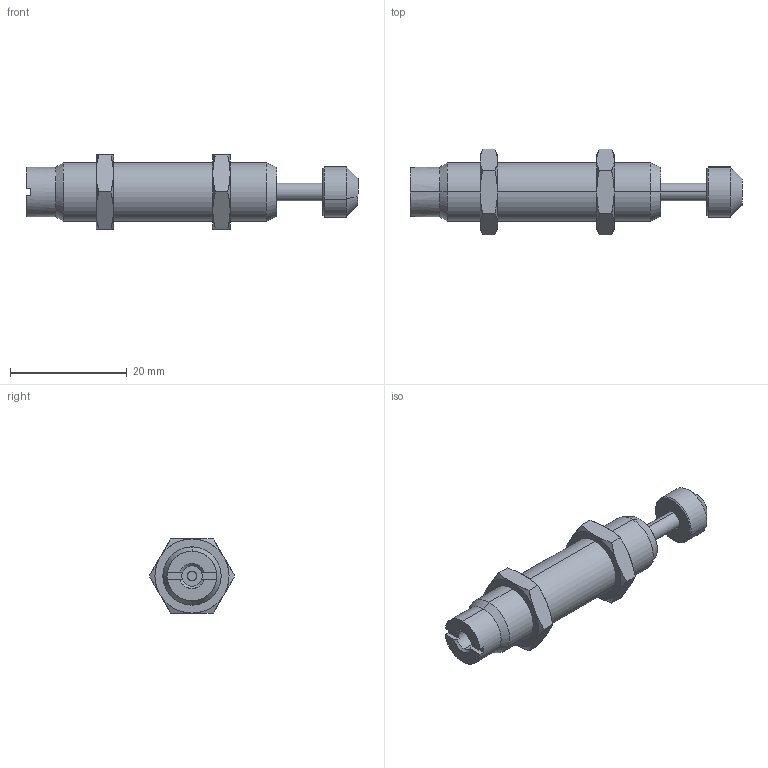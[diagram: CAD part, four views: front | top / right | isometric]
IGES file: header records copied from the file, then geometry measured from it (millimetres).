
Start section: SolidWorks IGES file using analytic representation for surfaces
Global section: file name: D:\IGS跡宒\AC1008.IGS,1; native system: 5HSolidWorks 2013; preprocessor: SolidWorks 2013; author: Administrator; date: 160406.151545; units: inch
Bounding box: 56.9 x 14.66 x 12.7 mm (x, y, z)
Surface area: 2548.5 mm2 (no closed solid volume)
Topology: 0 solids, 0 shells, 84 faces, 1221 edges, 1221 vertices
Faces by surface type: revolution 55, bspline 29
